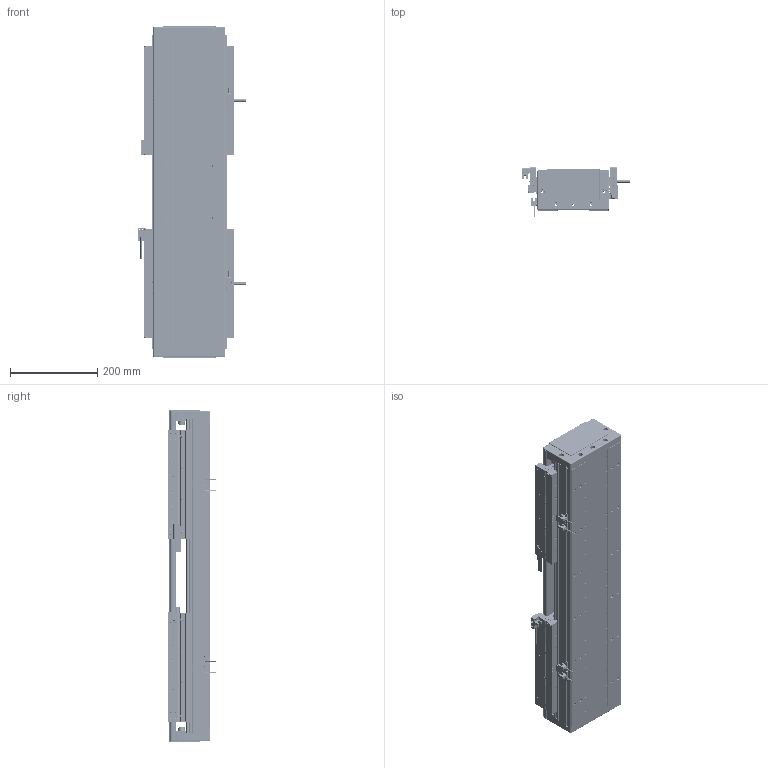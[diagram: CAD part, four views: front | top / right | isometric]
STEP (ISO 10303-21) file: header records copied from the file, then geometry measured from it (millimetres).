
FILE_DESCRIPTION (( 'STEP AP203' ), '1' );
FILE_NAME ('DA-C165-2-C3-T140-C010-0.2 直线电机.STEP', '2023-06-13T09:35:51', ( '微软用户' ), ( '微软中国' ), 'SwSTEP 2.0', 'SolidWorks 2019', '' );
FILE_SCHEMA (( 'CONFIG_CONTROL_DESIGN' ));
Length unit declared in the file: millimetre
Products named in the file (19): 珨极趙賑雄怢啣C3-wf; 复件 XD-U-02L 磁栅尺^DA-C165-C3-T-C010-0.2-N 直线电机_T; 复件 DA165-GYP-00 光电感应片^DA-C165-C3-T-C010-0.2-N 直线电机; 复件 DMA-010-0.2 读数头^DA-C165-C3-T-C010-0.2-N 直线电机; 葩璃 PM-T45^DA-C165-C3-T-C010-0.2-N 眻盄萇儂; 葩璃 CKM01-W075-TRL^DA-C165-C3-T-C010-0.2-N 眻盄萇儂; 葩璃 DA95-GT-T-00^IU-CU165-L 菁釱絳寢_T; 复件 DKW-HXJ-JY-00 缓冲橡胶^DA-C165-C3-T-C010-0.2-N 直线电机; 葩璃 PM-Y45^DA-C165-C3-T-C010-0.2-N 眻盄萇儂; 复件 DA165-DG-H-N-00 端盖^DA-C165-C3-T-C010-0.2-N 直线电机; 复件 DA126-GYP-ZJ-00 中间光电感应片^DA-C165-C3-T-C010-0.2-N 直线电机; 复件 CU165 底座^IU-CU165-L 底座导轨_L720; IU-CU165-L 菁釱絳寢; 葩璃 CKM03-W075-C1C2-TP-3.0^DA-C165-C3-T-C010-0.2-N 眻盄萇儂; 复件 66338-1000-006-00 光电感应块^DA-C165-C3-T-C010-0.2-N 直线电机; DA-C165-2-C3-T140-C010-0.2 眻盄萇儂; 复件 DA165-T-002-00 盖板^DA-C165-C3-T-C010-0.2-N 直线电机_0840-002-00; 复件 六角薄螺母 M3^DA-C165-C3-T-C010-0.2-N 直线电机_GB_FASTENER_NUT_STNAB M3-C; 复件 DA95-HXJ-00 缓冲橡胶^DA-C165-C3-T-C010-0.2-N 直线电机
Assembly tree (40 placements, depth 3):
  DA-C165-2-C3-T140-C010-0.2 眻盄萇儂
    IU-CU165-L 菁釱絳寢
      复件 CU165 底座^IU-CU165-L 底座导轨_L720
      葩璃 DA95-GT-T-00^IU-CU165-L 菁釱絳寢_T  x4
    复件 DA165-DG-H-N-00 端盖^DA-C165-C3-T-C010-0.2-N 直线电机  x2
    复件 DA95-HXJ-00 缓冲橡胶^DA-C165-C3-T-C010-0.2-N 直线电机  x4
    复件 DA165-T-002-00 盖板^DA-C165-C3-T-C010-0.2-N 直线电机_0840-002-00
    复件 XD-U-02L 磁栅尺^DA-C165-C3-T-C010-0.2-N 直线电机_T
    葩璃 PM-T45^DA-C165-C3-T-C010-0.2-N 眻盄萇儂  x4
    葩璃 CKM01-W075-TRL^DA-C165-C3-T-C010-0.2-N 眻盄萇儂
    复件 DMA-010-0.2 读数头^DA-C165-C3-T-C010-0.2-N 直线电机  x2
    复件 DA165-GYP-00 光电感应片^DA-C165-C3-T-C010-0.2-N 直线电机  x2
    复件 66338-1000-006-00 光电感应块^DA-C165-C3-T-C010-0.2-N 直线电机
    葩璃 PM-Y45^DA-C165-C3-T-C010-0.2-N 眻盄萇儂
    复件 DA126-GYP-ZJ-00 中间光电感应片^DA-C165-C3-T-C010-0.2-N 直线电机
    葩璃 CKM03-W075-C1C2-TP-3.0^DA-C165-C3-T-C010-0.2-N 眻盄萇儂  x2
    复件 DKW-HXJ-JY-00 缓冲橡胶^DA-C165-C3-T-C010-0.2-N 直线电机  x2
    复件 六角薄螺母 M3^DA-C165-C3-T-C010-0.2-N 直线电机_GB_FASTENER_NUT_STNAB M3-C  x8
    珨极趙賑雄怢啣C3-wf  x2
Bounding box: 247.2 x 111.45 x 760 mm (x, y, z)
Volume: 8804274.9 mm3; surface area: 2084080.1 mm2
Topology: 117 solids, 217 shells, 5594 faces, 14325 edges, 8740 vertices
Faces by surface type: cylinder 2576, plane 1966, cone 956, torus 88, sphere 8
Entity records: 101656 total; most frequent: CARTESIAN_POINT 22490, DIRECTION 16437, ORIENTED_EDGE 15536, EDGE_CURVE 7768, AXIS2_PLACEMENT_3D 6159, VERTEX_POINT 4994, LINE 4119, VECTOR 4119
